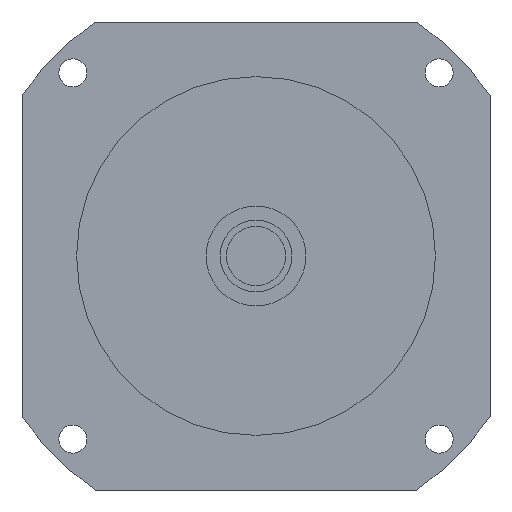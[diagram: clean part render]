
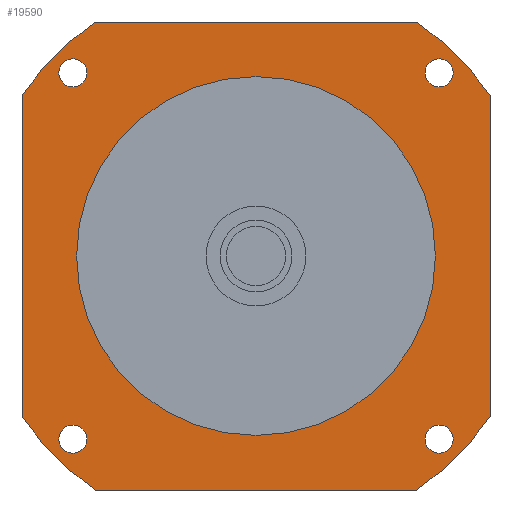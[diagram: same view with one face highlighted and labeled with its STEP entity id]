
A CAD part, left-side view. The second image highlights one B-rep face of the part: STEP entity #19590.
In plain terms, the highlighted planar face has unit normal (-1, 0, 0) as drawn and (0, 0, -1) by its records, which use the part's own axes.
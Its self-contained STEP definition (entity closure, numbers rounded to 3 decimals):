
#13870=CARTESIAN_POINT('',(-51.536,75.,-62.));
#13880=VERTEX_POINT('',#13870);
#14060=CARTESIAN_POINT('',(-75.,51.536,-62.));
#14070=VERTEX_POINT('',#14060);
#14100=CARTESIAN_POINT('',(0.,0.,-62.));
#14110=DIRECTION('',(0.,0.,-1.));
#14120=DIRECTION('',(1.,0.,0.));
#14130=AXIS2_PLACEMENT_3D('',#14100,#14110,#14120);
#14140=CIRCLE('',#14130,91.);
#14150=EDGE_CURVE('',#14070,#13880,#14140,.T.);
#14290=CARTESIAN_POINT('',(75.,51.536,-62.));
#14300=VERTEX_POINT('',#14290);
#14350=CARTESIAN_POINT('',(75.,75.,-62.));
#14360=DIRECTION('',(0.,-1.,0.));
#14370=VECTOR('',#14360,1000.);
#14380=LINE('',#14350,#14370);
#14390=CARTESIAN_POINT('',(75.,-51.536,-62.));
#14400=VERTEX_POINT('',#14390);
#14410=EDGE_CURVE('',#14300,#14400,#14380,.T.);
#18110=CARTESIAN_POINT('',(-54.19,58.69,-62.));
#18120=VERTEX_POINT('',#18110);
#18150=CARTESIAN_POINT('',(-58.69,58.69,-62.));
#18160=DIRECTION('',(0.,0.,-1.));
#18170=DIRECTION('',(-1.,0.,0.));
#18180=AXIS2_PLACEMENT_3D('',#18150,#18160,#18170);
#18190=CIRCLE('',#18180,4.5);
#18200=CARTESIAN_POINT('',(-63.19,58.69,-62.));
#18210=VERTEX_POINT('',#18200);
#18220=EDGE_CURVE('',#18210,#18120,#18190,.T.);
#18340=CARTESIAN_POINT('',(75.,75.,-62.));
#18350=DIRECTION('',(0.,0.,-1.));
#18360=DIRECTION('',(1.,0.,0.));
#18370=AXIS2_PLACEMENT_3D('',#18340,#18350,#18360);
#18380=PLANE('',#18370);
#18390=ORIENTED_EDGE('',*,*,#18220,.F.);
#18400=EDGE_CURVE('',#18120,#18210,#18190,.T.);
#18410=ORIENTED_EDGE('',*,*,#18400,.F.);
#18420=EDGE_LOOP('',(#18410,#18390));
#18430=FACE_BOUND('',#18420,.T.);
#18440=CARTESIAN_POINT('',(58.69,58.69,-62.));
#18450=DIRECTION('',(0.,0.,-1.));
#18460=DIRECTION('',(0.,1.,0.));
#18470=AXIS2_PLACEMENT_3D('',#18440,#18450,#18460);
#18480=CIRCLE('',#18470,4.5);
#18490=CARTESIAN_POINT('',(58.69,63.19,-62.));
#18500=VERTEX_POINT('',#18490);
#18510=CARTESIAN_POINT('',(58.69,54.19,-62.));
#18520=VERTEX_POINT('',#18510);
#18530=EDGE_CURVE('',#18500,#18520,#18480,.T.);
#18540=ORIENTED_EDGE('',*,*,#18530,.F.);
#18550=EDGE_CURVE('',#18520,#18500,#18480,.T.);
#18560=ORIENTED_EDGE('',*,*,#18550,.F.);
#18570=EDGE_LOOP('',(#18560,#18540));
#18580=FACE_BOUND('',#18570,.T.);
#18590=CARTESIAN_POINT('',(0.,0.,
-62.));
#18600=DIRECTION('',(0.,0.,1.));
#18610=DIRECTION('',(0.,1.,0.));
#18620=AXIS2_PLACEMENT_3D('',#18590,#18600,#18610);
#18630=CIRCLE('',#18620,57.5);
#18640=CARTESIAN_POINT('',(-57.5,0.,-62.));
#18650=VERTEX_POINT('',#18640);
#18660=CARTESIAN_POINT('',(57.5,0.,-62.));
#18670=VERTEX_POINT('',#18660);
#18680=EDGE_CURVE('',#18650,#18670,#18630,.T.);
#18690=ORIENTED_EDGE('',*,*,#18680,.T.);
#18700=CARTESIAN_POINT('',(0.,57.5,-62.));
#18710=VERTEX_POINT('',#18700);
#18720=EDGE_CURVE('',#18710,#18650,#18630,.T.);
#18730=ORIENTED_EDGE('',*,*,#18720,.T.);
#18740=EDGE_CURVE('',#18670,#18710,#18630,.T.);
#18750=ORIENTED_EDGE('',*,*,#18740,.T.);
#18760=EDGE_LOOP('',(#18750,#18730,#18690));
#18770=FACE_BOUND('',#18760,.T.);
#18780=CARTESIAN_POINT('',(58.69,-58.69,-62.));
#18790=DIRECTION('',(0.,0.,-1.));
#18800=DIRECTION('',(1.,0.,0.));
#18810=AXIS2_PLACEMENT_3D('',#18780,#18790,#18800);
#18820=CIRCLE('',#18810,4.5);
#18830=CARTESIAN_POINT('',(63.19,-58.69,-62.));
#18840=VERTEX_POINT('',#18830);
#18850=CARTESIAN_POINT('',(54.19,-58.69,-62.));
#18860=VERTEX_POINT('',#18850);
#18870=EDGE_CURVE('',#18840,#18860,#18820,.T.);
#18880=ORIENTED_EDGE('',*,*,#18870,.F.);
#18890=EDGE_CURVE('',#18860,#18840,#18820,.T.);
#18900=ORIENTED_EDGE('',*,*,#18890,.F.);
#18910=EDGE_LOOP('',(#18900,#18880));
#18920=FACE_BOUND('',#18910,.T.);
#18930=CARTESIAN_POINT('',(-58.69,-58.69,-62.));
#18940=DIRECTION('',(0.,0.,-1.));
#18950=DIRECTION('',(0.,-1.,0.));
#18960=AXIS2_PLACEMENT_3D('',#18930,#18940,#18950);
#18970=CIRCLE('',#18960,4.5);
#18980=CARTESIAN_POINT('',(-58.69,-63.19,-62.));
#18990=VERTEX_POINT('',#18980);
#19000=CARTESIAN_POINT('',(-58.69,-54.19,-62.));
#19010=VERTEX_POINT('',#19000);
#19020=EDGE_CURVE('',#18990,#19010,#18970,.T.);
#19030=ORIENTED_EDGE('',*,*,#19020,.F.);
#19040=EDGE_CURVE('',#19010,#18990,#18970,.T.);
#19050=ORIENTED_EDGE('',*,*,#19040,.F.);
#19060=EDGE_LOOP('',(#19050,#19030));
#19070=FACE_BOUND('',#19060,.T.);
#19080=CARTESIAN_POINT('',(-75.,75.,-62.));
#19090=DIRECTION('',(1.,0.,0.));
#19100=VECTOR('',#19090,1000.);
#19110=LINE('',#19080,#19100);
#19120=CARTESIAN_POINT('',(51.536,75.,-62.));
#19130=VERTEX_POINT('',#19120);
#19140=EDGE_CURVE('',#13880,#19130,#19110,.T.);
#19150=ORIENTED_EDGE('',*,*,#19140,.T.);
#19160=ORIENTED_EDGE('',*,*,#14150,.T.);
#19170=CARTESIAN_POINT('',(-75.,-75.,-62.));
#19180=DIRECTION('',(0.,1.,0.));
#19190=VECTOR('',#19180,1000.);
#19200=LINE('',#19170,#19190);
#19210=CARTESIAN_POINT('',(-75.,-51.536,-62.));
#19220=VERTEX_POINT('',#19210);
#19230=EDGE_CURVE('',#19220,#14070,#19200,.T.);
#19240=ORIENTED_EDGE('',*,*,#19230,.T.);
#19250=CARTESIAN_POINT('',(0.,0.,-62.));
#19260=DIRECTION('',(0.,0.,-1.));
#19270=DIRECTION('',(1.,0.,0.));
#19280=AXIS2_PLACEMENT_3D('',#19250,#19260,#19270);
#19290=CIRCLE('',#19280,91.);
#19300=CARTESIAN_POINT('',(-51.536,-75.,-62.));
#19310=VERTEX_POINT('',#19300);
#19320=EDGE_CURVE('',#19310,#19220,#19290,.T.);
#19330=ORIENTED_EDGE('',*,*,#19320,.T.);
#19340=CARTESIAN_POINT('',(75.,-75.,-62.));
#19350=DIRECTION('',(-1.,0.,0.));
#19360=VECTOR('',#19350,1000.);
#19370=LINE('',#19340,#19360);
#19380=CARTESIAN_POINT('',(51.536,-75.,-62.));
#19390=VERTEX_POINT('',#19380);
#19400=EDGE_CURVE('',#19390,#19310,#19370,.T.);
#19410=ORIENTED_EDGE('',*,*,#19400,.T.);
#19420=CARTESIAN_POINT('',(0.,0.,-62.));
#19430=DIRECTION('',(0.,0.,-1.));
#19440=DIRECTION('',(1.,0.,0.));
#19450=AXIS2_PLACEMENT_3D('',#19420,#19430,#19440);
#19460=CIRCLE('',#19450,91.);
#19470=EDGE_CURVE('',#14400,#19390,#19460,.T.);
#19480=ORIENTED_EDGE('',*,*,#19470,.T.);
#19490=ORIENTED_EDGE('',*,*,#14410,.T.);
#19500=CARTESIAN_POINT('',(0.,0.,-62.));
#19510=DIRECTION('',(0.,0.,-1.));
#19520=DIRECTION('',(1.,0.,0.));
#19530=AXIS2_PLACEMENT_3D('',#19500,#19510,#19520);
#19540=CIRCLE('',#19530,91.);
#19550=EDGE_CURVE('',#19130,#14300,#19540,.T.);
#19560=ORIENTED_EDGE('',*,*,#19550,.T.);
#19570=EDGE_LOOP('',(#19560,#19490,#19480,#19410,#19330,#19240,#19160,
#19150));
#19580=FACE_OUTER_BOUND('',#19570,.T.);
#19590=ADVANCED_FACE('',(#18430,#18580,#18770,#18920,#19070,#19580),
#18380,.T.);
